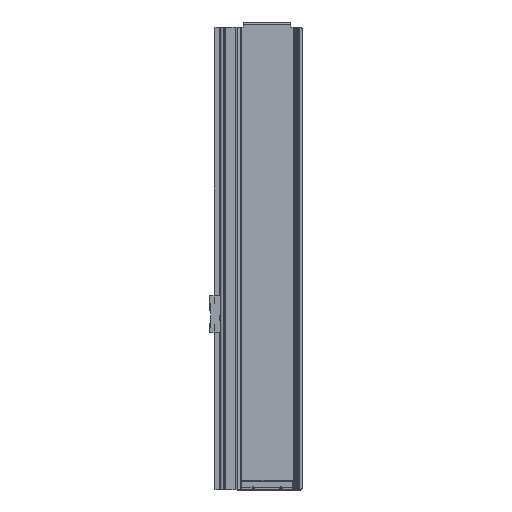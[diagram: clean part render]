
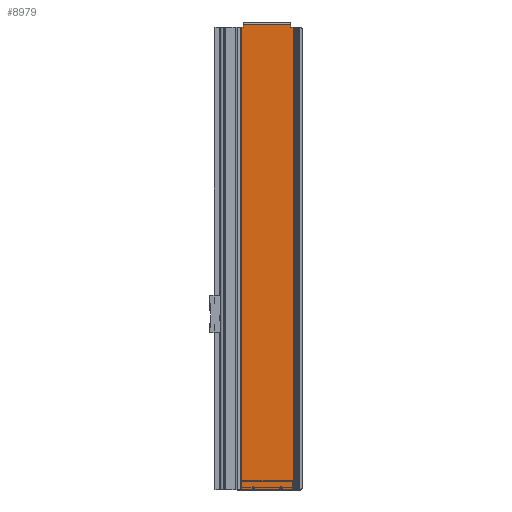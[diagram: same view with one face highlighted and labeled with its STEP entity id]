
A CAD part, left-side view. The second image highlights one B-rep face of the part: STEP entity #8979.
In plain terms, the highlighted planar face has unit normal (-1, 0, 0) as drawn and (1, 0, 0) by its records, which use the part's own axes.
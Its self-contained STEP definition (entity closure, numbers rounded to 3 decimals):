
#267=PLANE('',#9782);
#738=LINE('',#14483,#1466);
#743=LINE('',#14498,#1471);
#748=LINE('',#14507,#1476);
#749=LINE('',#14510,#1477);
#786=LINE('',#14635,#1514);
#804=LINE('',#14683,#1532);
#805=LINE('',#14686,#1533);
#806=LINE('',#14687,#1534);
#1466=VECTOR('',#11616,10.);
#1471=VECTOR('',#11631,10.);
#1476=VECTOR('',#11638,10.);
#1477=VECTOR('',#11641,10.);
#1514=VECTOR('',#11748,10.);
#1532=VECTOR('',#11802,10.);
#1533=VECTOR('',#11805,10.);
#1534=VECTOR('',#11806,10.);
#2195=FACE_OUTER_BOUND('',#2745,.T.);
#2745=EDGE_LOOP('',(#7028,#7029,#7030,#7031,#7032,#7033,#7034,#7035));
#3902=VERTEX_POINT('',#14479);
#3903=VERTEX_POINT('',#14481);
#3908=VERTEX_POINT('',#14497);
#3911=VERTEX_POINT('',#14505);
#3912=VERTEX_POINT('',#14509);
#3965=VERTEX_POINT('',#14633);
#3977=VERTEX_POINT('',#14681);
#3978=VERTEX_POINT('',#14685);
#4955=EDGE_CURVE('',#3902,#3903,#738,.T.);
#4962=EDGE_CURVE('',#3908,#3902,#743,.T.);
#4967=EDGE_CURVE('',#3903,#3911,#748,.T.);
#4968=EDGE_CURVE('',#3912,#3908,#749,.T.);
#5031=EDGE_CURVE('',#3911,#3965,#786,.T.);
#5055=EDGE_CURVE('',#3977,#3965,#804,.T.);
#5056=EDGE_CURVE('',#3978,#3977,#805,.T.);
#5057=EDGE_CURVE('',#3978,#3912,#806,.T.);
#7028=ORIENTED_EDGE('',*,*,#5056,.F.);
#7029=ORIENTED_EDGE('',*,*,#5057,.T.);
#7030=ORIENTED_EDGE('',*,*,#4968,.T.);
#7031=ORIENTED_EDGE('',*,*,#4962,.T.);
#7032=ORIENTED_EDGE('',*,*,#4955,.T.);
#7033=ORIENTED_EDGE('',*,*,#4967,.T.);
#7034=ORIENTED_EDGE('',*,*,#5031,.T.);
#7035=ORIENTED_EDGE('',*,*,#5055,.F.);
#8979=ADVANCED_FACE('',(#2195),#267,.F.);
#9782=AXIS2_PLACEMENT_3D('',#14684,#11803,#11804);
#11616=DIRECTION('',(0.,-1.,0.));
#11631=DIRECTION('',(0.,0.,1.));
#11638=DIRECTION('',(0.,0.,-1.));
#11641=DIRECTION('',(0.,-1.,0.));
#11748=DIRECTION('',(0.,-1.,0.));
#11802=DIRECTION('',(0.,0.,1.));
#11803=DIRECTION('center_axis',(-1.,0.,0.));
#11804=DIRECTION('ref_axis',(0.,-1.,0.));
#11805=DIRECTION('',(0.,-1.,0.));
#11806=DIRECTION('',(0.,0.,1.));
#14479=CARTESIAN_POINT('',(4.9,73.,445.6));
#14481=CARTESIAN_POINT('',(4.9,27.5,445.6));
#14483=CARTESIAN_POINT('',(4.9,73.,445.6));
#14497=CARTESIAN_POINT('',(4.9,73.,443.));
#14498=CARTESIAN_POINT('',(4.9,73.,443.));
#14505=CARTESIAN_POINT('',(4.9,27.5,443.));
#14507=CARTESIAN_POINT('',(4.9,27.5,443.));
#14509=CARTESIAN_POINT('',(4.9,75.342,443.));
#14510=CARTESIAN_POINT('',(4.9,75.342,443.));
#14633=CARTESIAN_POINT('',(4.9,25.9,443.));
#14635=CARTESIAN_POINT('',(4.9,75.342,443.));
#14681=CARTESIAN_POINT('',(4.9,25.9,0.));
#14683=CARTESIAN_POINT('',(4.9,25.9,0.));
#14684=CARTESIAN_POINT('Origin',(4.9,75.342,0.));
#14685=CARTESIAN_POINT('',(4.9,75.342,0.));
#14686=CARTESIAN_POINT('',(4.9,75.342,0.));
#14687=CARTESIAN_POINT('',(4.9,75.342,0.));
